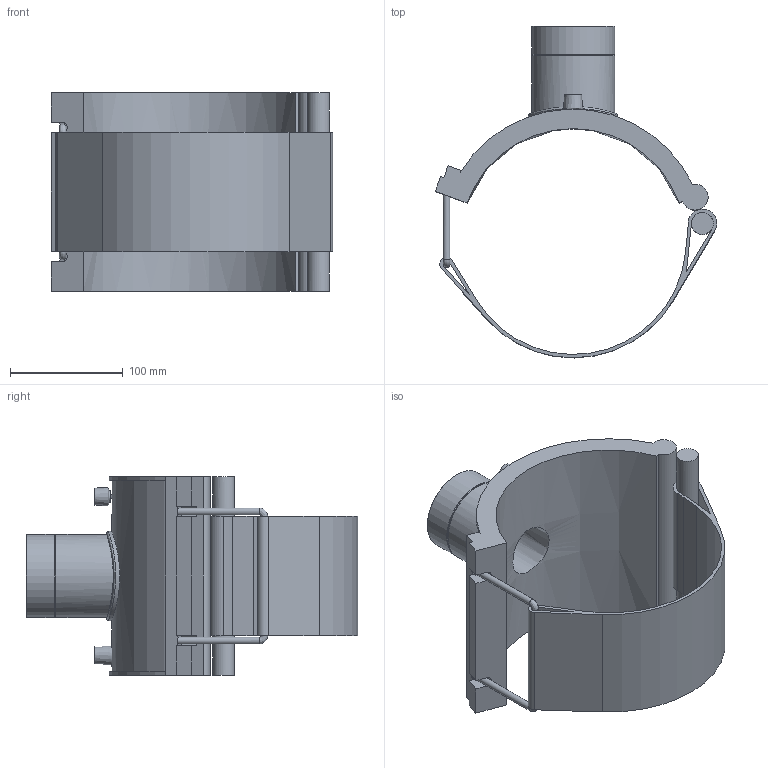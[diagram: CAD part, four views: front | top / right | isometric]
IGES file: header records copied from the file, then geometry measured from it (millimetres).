
Global section: file name: 493804200020.ipt; native system: Autodesk Inventor 2015; preprocessor: unknown; author: KIM; date: 20171106.094113; units: millimetre
Bounding box: 249.43 x 293.99 x 176 mm (x, y, z)
Volume: 1168507.5 mm3; surface area: 262992.5 mm2
Topology: 2 solids, 2 shells, 80 faces, 200 edges, 128 vertices
Faces by surface type: plane 44, cylinder 19, revolution 11, cone 5, bspline 1
Full cylindrical faces by diameter (mm): 4 x2, 6 x2, 19.385 x1, 72.653 x1, 73.653 x2, 79.318 x1
